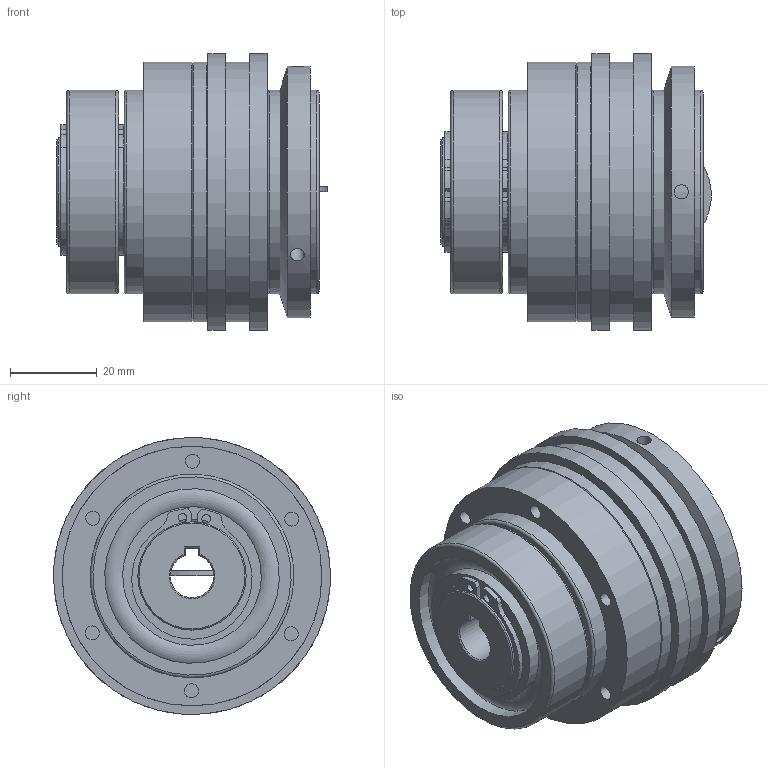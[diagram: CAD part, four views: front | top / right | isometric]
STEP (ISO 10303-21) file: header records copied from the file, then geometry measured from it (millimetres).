
FILE_DESCRIPTION( ( 'Unknown' ), '1' );
FILE_NAME( 'C:/Dokumente und Einstellungen/Sven/Desktop/hp kbk/KBK LL-P-30.stp', 'Unknown', ( 'Unknown' ), ( 'Unknown' ), 'XStep 1.0', 'Unknown', ' ' );
FILE_SCHEMA( ( 'automotive_design' ) );
Length unit declared in the file: millimetre
Products named in the file (10): Assem1; Assem2; ball_bearing_-_6005_0_01; ball_bearing_-_6005_0_02; ball_bearing_-_6005_0_03; Stellring 30; Druckring 30; a_25; KBK LL-P-30 Grundkörper; Flansch L30
Bounding box: 62.35 x 64 x 64 mm (x, y, z)
Volume: 186406.3 mm3; surface area: 101478.4 mm2
Topology: 23 solids, 23 shells, 246 faces, 502 edges, 316 vertices
Faces by surface type: cylinder 104, plane 94, torus 32, cone 16
Full cylindrical faces by diameter (mm): 2 x6, 3.242 x18, 23.9 x4, 25 x10, 32 x8, 34 x2, 38 x4, 40 x2, 40.3 x8, 47 x6, 52 x2, 58 x2, 60 x4, 64 x2
Entity records: 2819 total; most frequent: CARTESIAN_POINT 670, DIRECTION 446, ORIENTED_EDGE 278, AXIS2_PLACEMENT_3D 203, EDGE_LOOP 178, EDGE_CURVE 139, FACE_OUTER_BOUND 137, VERTEX_POINT 115
